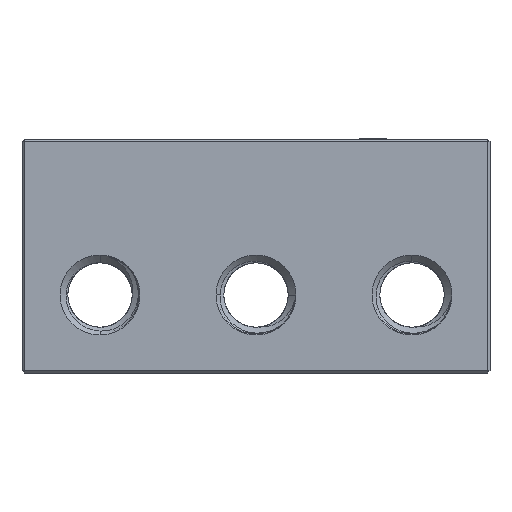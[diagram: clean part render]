
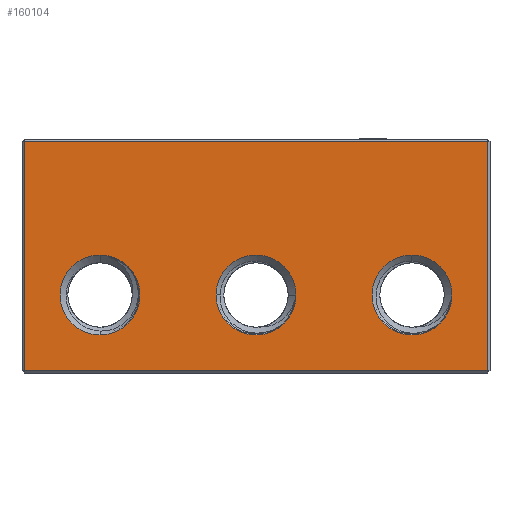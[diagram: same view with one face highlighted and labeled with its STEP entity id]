
A CAD part, front view. The second image highlights one B-rep face of the part: STEP entity #160104.
In plain terms, the highlighted planar face has unit normal (0, -1, 0).
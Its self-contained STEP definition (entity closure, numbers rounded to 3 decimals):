
#13949 = CARTESIAN_POINT ( 'NONE',  ( -11.875, -21.5, 11.875 ) ) ;
#15865 = VECTOR ( 'NONE', #238968, 1000. ) ;
#22633 = EDGE_CURVE ( 'NONE', #51473, #193302, #406099, .T. ) ;
#23419 = CARTESIAN_POINT ( 'NONE',  ( 11.875, -21.5, 0.125 ) ) ;
#24842 = ORIENTED_EDGE ( 'NONE', *, *, #275471, .T. ) ;
#37754 = VERTEX_POINT ( 'NONE', #23419 ) ;
#37853 = ORIENTED_EDGE ( 'NONE', *, *, #107671, .T. ) ;
#38867 = AXIS2_PLACEMENT_3D ( 'NONE', #130130, #96618, #232047 ) ;
#39272 = AXIS2_PLACEMENT_3D ( 'NONE', #233040, #295727, #66925 ) ;
#39500 = EDGE_LOOP ( 'NONE', ( #54951, #24842, #104953, #296805 ) ) ;
#41230 = VERTEX_POINT ( 'NONE', #346880 ) ;
#41770 = ORIENTED_EDGE ( 'NONE', *, *, #55407, .T. ) ;
#43551 = VERTEX_POINT ( 'NONE', #429037 ) ;
#50136 = EDGE_CURVE ( 'NONE', #230920, #41230, #199827, .T. ) ;
#51473 = VERTEX_POINT ( 'NONE', #78945 ) ;
#51784 = VERTEX_POINT ( 'NONE', #219656 ) ;
#54951 = ORIENTED_EDGE ( 'NONE', *, *, #100133, .T. ) ;
#55407 = EDGE_CURVE ( 'NONE', #125395, #51784, #350622, .T. ) ;
#61195 = DIRECTION ( 'NONE',  ( 1., 0., 0. ) ) ;
#63523 = CARTESIAN_POINT ( 'NONE',  ( -11.875, -21.5, 12. ) ) ;
#64129 = AXIS2_PLACEMENT_3D ( 'NONE', #408221, #346983, #313534 ) ;
#65497 = CARTESIAN_POINT ( 'NONE',  ( 8., -21.5, 6.05 ) ) ;
#66925 = DIRECTION ( 'NONE',  ( 1., 0., 0. ) ) ;
#78945 = CARTESIAN_POINT ( 'NONE',  ( 8., -21.5, 1.95 ) ) ;
#92562 = CARTESIAN_POINT ( 'NONE',  ( 8., -21.5, 4. ) ) ;
#96618 = DIRECTION ( 'NONE',  ( 0., 1., 0. ) ) ;
#98040 = ORIENTED_EDGE ( 'NONE', *, *, #50136, .T. ) ;
#99876 = DIRECTION ( 'NONE',  ( 0., 0., -1. ) ) ;
#99926 = EDGE_CURVE ( 'NONE', #350115, #43551, #164833, .T. ) ;
#100133 = EDGE_CURVE ( 'NONE', #43551, #37754, #175272, .T. ) ;
#104953 = ORIENTED_EDGE ( 'NONE', *, *, #283055, .T. ) ;
#107671 = EDGE_CURVE ( 'NONE', #51784, #125395, #346551, .T. ) ;
#116112 = AXIS2_PLACEMENT_3D ( 'NONE', #228695, #132493, #61195 ) ;
#118984 = CARTESIAN_POINT ( 'NONE',  ( 11.875, -21.5, 11.875 ) ) ;
#125395 = VERTEX_POINT ( 'NONE', #150034 ) ;
#125976 = CIRCLE ( 'NONE', #388152, 2.05 ) ;
#130130 = CARTESIAN_POINT ( 'NONE',  ( 0., -21.5, 4. ) ) ;
#132493 = DIRECTION ( 'NONE',  ( 0., 1., 0. ) ) ;
#135822 = LINE ( 'NONE', #273917, #15865 ) ;
#149062 = DIRECTION ( 'NONE',  ( 0., 1., 0. ) ) ;
#150034 = CARTESIAN_POINT ( 'NONE',  ( -8., -21.5, 1.95 ) ) ;
#159425 = AXIS2_PLACEMENT_3D ( 'NONE', #261389, #361768, #366057 ) ;
#160104 = ADVANCED_FACE ( 'NONE', ( #360780, #215019, #272244, #266841 ), #330602, .T. ) ;
#161906 = EDGE_CURVE ( 'NONE', #193302, #51473, #125976, .T. ) ;
#164833 = LINE ( 'NONE', #63523, #352323 ) ;
#175272 = LINE ( 'NONE', #203211, #232545 ) ;
#176928 = EDGE_LOOP ( 'NONE', ( #183642, #277405 ) ) ;
#183642 = ORIENTED_EDGE ( 'NONE', *, *, #22633, .T. ) ;
#190471 = DIRECTION ( 'NONE',  ( 0., 0., 1. ) ) ;
#193302 = VERTEX_POINT ( 'NONE', #65497 ) ;
#198045 = LINE ( 'NONE', #256016, #401470 ) ;
#199827 = CIRCLE ( 'NONE', #159425, 2.05 ) ;
#203211 = CARTESIAN_POINT ( 'NONE',  ( 12., -21.5, 0.125 ) ) ;
#208881 = CIRCLE ( 'NONE', #38867, 2.05 ) ;
#211041 = VERTEX_POINT ( 'NONE', #118984 ) ;
#215019 = FACE_BOUND ( 'NONE', #259686, .T. ) ;
#219656 = CARTESIAN_POINT ( 'NONE',  ( -8., -21.5, 6.05 ) ) ;
#228695 = CARTESIAN_POINT ( 'NONE',  ( 8., -21.5, 4. ) ) ;
#230920 = VERTEX_POINT ( 'NONE', #421017 ) ;
#232047 = DIRECTION ( 'NONE',  ( 1., 0., 0. ) ) ;
#232545 = VECTOR ( 'NONE', #268804, 1000. ) ;
#233040 = CARTESIAN_POINT ( 'NONE',  ( 0., -21.5, 12. ) ) ;
#238968 = DIRECTION ( 'NONE',  ( -1., 0., 0. ) ) ;
#256016 = CARTESIAN_POINT ( 'NONE',  ( 11.875, -21.5, 12. ) ) ;
#258629 = DIRECTION ( 'NONE',  ( 0., 1., 0. ) ) ;
#259686 = EDGE_LOOP ( 'NONE', ( #98040, #289974 ) ) ;
#261389 = CARTESIAN_POINT ( 'NONE',  ( 0., -21.5, 4. ) ) ;
#266841 = FACE_BOUND ( 'NONE', #176928, .T. ) ;
#268804 = DIRECTION ( 'NONE',  ( 1., 0., 0. ) ) ;
#269103 = EDGE_CURVE ( 'NONE', #41230, #230920, #208881, .T. ) ;
#272244 = FACE_BOUND ( 'NONE', #406966, .T. ) ;
#273917 = CARTESIAN_POINT ( 'NONE',  ( 0., -21.5, 11.875 ) ) ;
#275471 = EDGE_CURVE ( 'NONE', #37754, #211041, #198045, .T. ) ;
#277405 = ORIENTED_EDGE ( 'NONE', *, *, #161906, .T. ) ;
#281589 = DIRECTION ( 'NONE',  ( 1., 0., 0. ) ) ;
#283055 = EDGE_CURVE ( 'NONE', #211041, #350115, #135822, .T. ) ;
#289974 = ORIENTED_EDGE ( 'NONE', *, *, #269103, .T. ) ;
#295727 = DIRECTION ( 'NONE',  ( 0., -1., 0. ) ) ;
#296805 = ORIENTED_EDGE ( 'NONE', *, *, #99926, .T. ) ;
#313534 = DIRECTION ( 'NONE',  ( 1., 0., 0. ) ) ;
#330602 = PLANE ( 'NONE',  #39272 ) ;
#341150 = AXIS2_PLACEMENT_3D ( 'NONE', #415487, #149062, #281589 ) ;
#346551 = CIRCLE ( 'NONE', #64129, 2.05 ) ;
#346880 = CARTESIAN_POINT ( 'NONE',  ( -2.05, -21.5, 4. ) ) ;
#346983 = DIRECTION ( 'NONE',  ( 0., 1., 0. ) ) ;
#350115 = VERTEX_POINT ( 'NONE', #13949 ) ;
#350622 = CIRCLE ( 'NONE', #341150, 2.05 ) ;
#352323 = VECTOR ( 'NONE', #99876, 1000. ) ;
#360780 = FACE_OUTER_BOUND ( 'NONE', #39500, .T. ) ;
#361768 = DIRECTION ( 'NONE',  ( 0., 1., 0. ) ) ;
#366057 = DIRECTION ( 'NONE',  ( 1., 0., 0. ) ) ;
#388152 = AXIS2_PLACEMENT_3D ( 'NONE', #92562, #258629, #392520 ) ;
#392520 = DIRECTION ( 'NONE',  ( 1., 0., 0. ) ) ;
#401470 = VECTOR ( 'NONE', #190471, 1000. ) ;
#406099 = CIRCLE ( 'NONE', #116112, 2.05 ) ;
#406966 = EDGE_LOOP ( 'NONE', ( #41770, #37853 ) ) ;
#408221 = CARTESIAN_POINT ( 'NONE',  ( -8., -21.5, 4. ) ) ;
#415487 = CARTESIAN_POINT ( 'NONE',  ( -8., -21.5, 4. ) ) ;
#421017 = CARTESIAN_POINT ( 'NONE',  ( 2.05, -21.5, 4. ) ) ;
#429037 = CARTESIAN_POINT ( 'NONE',  ( -11.875, -21.5, 0.125 ) ) ;
